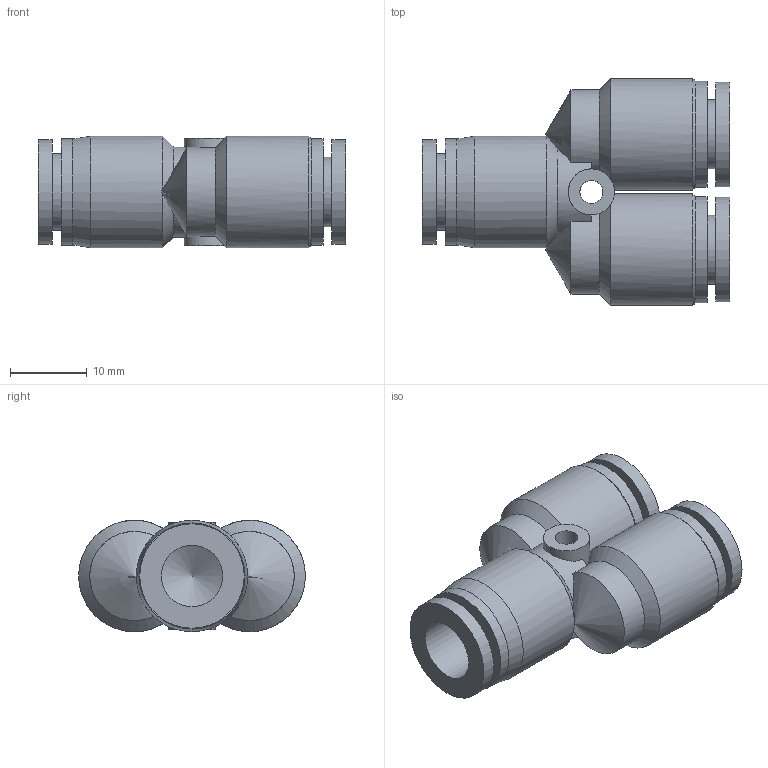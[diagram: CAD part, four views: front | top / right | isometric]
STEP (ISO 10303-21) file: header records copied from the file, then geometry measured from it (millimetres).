
FILE_DESCRIPTION((''),'2;1');
FILE_NAME('S:\UTecnico\ArchivioUT\Speciali Clienti\Speciali KONFIT\DISEGNI 3D\RP\RP 73\RP730008.stp','2012-12-03T16:20:26',('UT5'),(''),'Autodesk Inventor 2012','Autodesk Inventor 2012','');
FILE_SCHEMA(('AUTOMOTIVE_DESIGN { 1 0 10303 214 1 1 1 1 }'));
Length unit declared in the file: millimetre
Products named in the file (1): RP730008
Bounding box: 40 x 29.5 x 14.5 mm (x, y, z)
Volume: 6254.5 mm3; surface area: 5348.1 mm2
Topology: 1 solids, 1 shells, 48 faces, 117 edges, 76 vertices
Faces by surface type: cylinder 21, plane 15, cone 12
Full cylindrical faces by diameter (mm): 3 x1, 6 x1, 8 x3, 9 x2, 10 x1, 13.6 x3, 13.8 x3, 14.5 x3
Entity records: 1403 total; most frequent: CARTESIAN_POINT 383, DIRECTION 204, ORIENTED_EDGE 158, AXIS2_PLACEMENT_3D 98, EDGE_LOOP 80, EDGE_CURVE 79, VERTEX_POINT 63, CIRCLE 49
